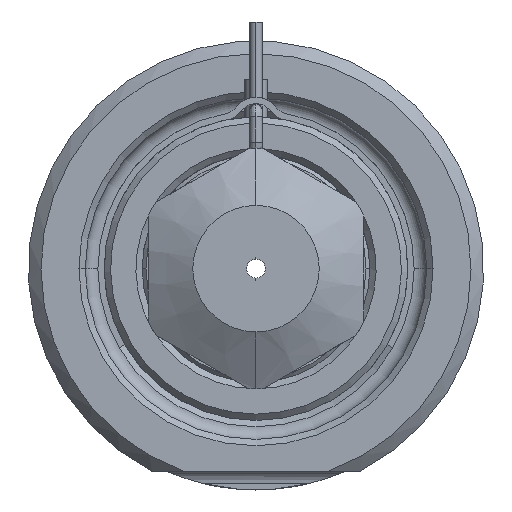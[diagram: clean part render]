
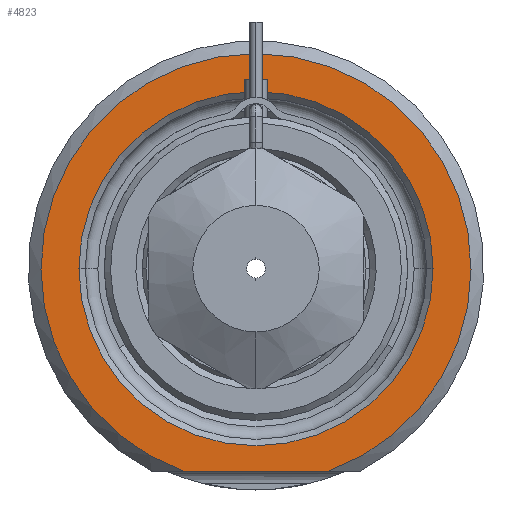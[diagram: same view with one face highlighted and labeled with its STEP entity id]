
A CAD part, front view. The second image highlights one B-rep face of the part: STEP entity #4823.
In plain terms, the highlighted planar face has unit normal (0, -1, 0).
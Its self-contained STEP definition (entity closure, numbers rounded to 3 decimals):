
#1476=DIRECTION('',(1.,0.,0.));
#1477=VECTOR('',#1476,11.489);
#1478=CARTESIAN_POINT('',(-5.745,0.,-16.));
#1479=LINE('',#1478,#1477);
#1480=CARTESIAN_POINT('',(0.,0.,0.));
#1481=DIRECTION('',(0.,1.,0.));
#1482=DIRECTION('',(-1.,0.,0.));
#1483=AXIS2_PLACEMENT_3D('',#1480,#1481,#1482);
#1485=CARTESIAN_POINT('',(0.,0.,0.));
#1486=DIRECTION('',(0.,1.,0.));
#1487=DIRECTION('',(1.,0.,0.));
#1488=AXIS2_PLACEMENT_3D('',#1485,#1486,#1487);
#1592=CARTESIAN_POINT('',(0.,0.,0.));
#1593=DIRECTION('',(0.,-1.,0.));
#1594=DIRECTION('',(0.338,0.,-0.941));
#1595=AXIS2_PLACEMENT_3D('',#1592,#1593,#1594);
#2560=CARTESIAN_POINT('',(-14.,0.,0.));
#2561=CARTESIAN_POINT('',(14.,0.,0.));
#2562=VERTEX_POINT('',#2560);
#2563=VERTEX_POINT('',#2561);
#2600=CARTESIAN_POINT('',(-5.745,0.,-16.));
#2601=CARTESIAN_POINT('',(5.745,0.,-16.));
#2602=VERTEX_POINT('',#2600);
#2603=VERTEX_POINT('',#2601);
#4807=CARTESIAN_POINT('',(0.,0.,0.));
#4808=DIRECTION('',(0.,-1.,0.));
#4809=DIRECTION('',(1.,0.,0.));
#4810=AXIS2_PLACEMENT_3D('',#4807,#4808,#4809);
#4811=PLANE('',#4810);
#4813=ORIENTED_EDGE('',*,*,#4812,.F.);
#4815=ORIENTED_EDGE('',*,*,#4814,.F.);
#4816=EDGE_LOOP('',(#4813,#4815));
#4817=FACE_OUTER_BOUND('',#4816,.F.);
#4819=ORIENTED_EDGE('',*,*,#4818,.F.);
#4820=ORIENTED_EDGE('',*,*,#4797,.F.);
#4821=EDGE_LOOP('',(#4819,#4820));
#4822=FACE_BOUND('',#4821,.F.);
#4823=ADVANCED_FACE('',(#4817,#4822),#4811,.T.);
#1484=CIRCLE('',#1483,14.);
#1489=CIRCLE('',#1488,14.);
#1596=CIRCLE('',#1595,17.);
#4797=EDGE_CURVE('',#2563,#2562,#1489,.T.);
#4812=EDGE_CURVE('',#2602,#2603,#1479,.T.);
#4814=EDGE_CURVE('',#2603,#2602,#1596,.T.);
#4818=EDGE_CURVE('',#2562,#2563,#1484,.T.);
